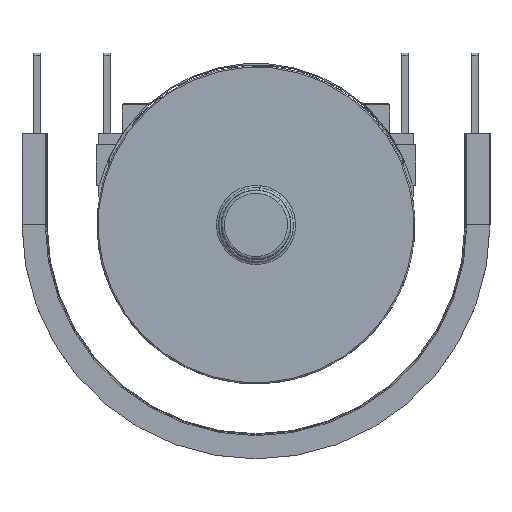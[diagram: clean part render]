
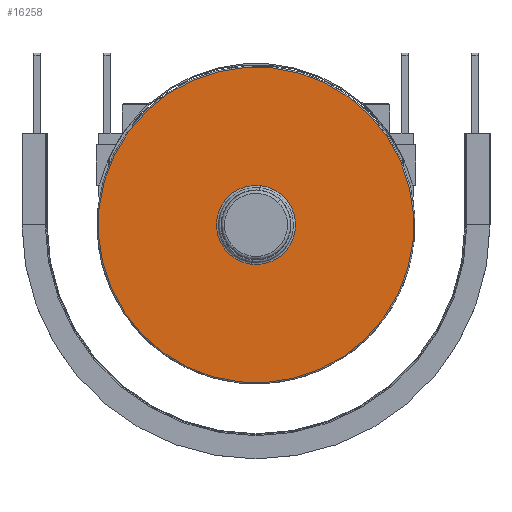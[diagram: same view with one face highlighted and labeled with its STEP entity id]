
A CAD part, front view. The second image highlights one B-rep face of the part: STEP entity #16258.
In plain terms, the highlighted planar face has unit normal (0, -1, 0) as drawn and (0, 0, 1) by its records, which use the part's own axes.
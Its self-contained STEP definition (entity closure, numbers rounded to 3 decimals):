
#724 = CARTESIAN_POINT ( 'NONE',  ( 895.8, 0., 21.9 ) ) ;
#725 = DIRECTION ( 'NONE',  ( 0., 0., 1. ) ) ;
#726 = DIRECTION ( 'NONE',  ( 0., 1., 0. ) ) ;
#736 = CARTESIAN_POINT ( 'NONE',  ( 895.8, 0., 21.9 ) ) ;
#737 = DIRECTION ( 'NONE',  ( 0., 0., -1. ) ) ;
#738 = DIRECTION ( 'NONE',  ( -1., 0., 0. ) ) ;
#2935 = CARTESIAN_POINT ( 'NONE',  ( 895.8, 0., 21.9 ) ) ;
#2936 = DIRECTION ( 'NONE',  ( 0., 0., -1. ) ) ;
#2937 = DIRECTION ( 'NONE',  ( -1., 0., 0. ) ) ;
#2938 = CARTESIAN_POINT ( 'NONE',  ( 895.8, 0., 21.9 ) ) ;
#2939 = DIRECTION ( 'NONE',  ( 0., 0., 1. ) ) ;
#2940 = DIRECTION ( 'NONE',  ( 0., 1., 0. ) ) ;
#4701 = AXIS2_PLACEMENT_3D ( 'NONE', #2938, #2939, #2940 ) ;
#4704 = CIRCLE ( 'NONE', #4722, 34.5 ) ;
#4717 = CIRCLE ( 'NONE', #4701, 137.8 ) ;
#4722 = AXIS2_PLACEMENT_3D ( 'NONE', #2935, #2936, #2937 ) ;
#6001 = AXIS2_PLACEMENT_3D ( 'NONE', #20900, #20898, #20904 ) ;
#6896 = VERTEX_POINT ( 'NONE', #8109 ) ;
#6898 = VERTEX_POINT ( 'NONE', #8111 ) ;
#6913 = VERTEX_POINT ( 'NONE', #8126 ) ;
#6917 = VERTEX_POINT ( 'NONE', #8130 ) ;
#8109 = CARTESIAN_POINT ( 'NONE',  ( 861.3, 0., 21.9 ) ) ;
#8111 = CARTESIAN_POINT ( 'NONE',  ( 895.8, -137.8, 21.9 ) ) ;
#8126 = CARTESIAN_POINT ( 'NONE',  ( 895.8, 137.8, 21.9 ) ) ;
#8130 = CARTESIAN_POINT ( 'NONE',  ( 930.3, 0., 21.9 ) ) ;
#15964 = EDGE_LOOP ( 'NONE', ( #17504, #17505 ) ) ;
#16258 = ADVANCED_FACE ( 'NONE', ( #20896, #20901 ), #20902, .T. ) ;
#17504 = ORIENTED_EDGE ( 'NONE', *, *, #18451, .T. ) ;
#17505 = ORIENTED_EDGE ( 'NONE', *, *, #23069, .T. ) ;
#17506 = ORIENTED_EDGE ( 'NONE', *, *, #18449, .T. ) ;
#17507 = ORIENTED_EDGE ( 'NONE', *, *, #23073, .T. ) ;
#18449 = EDGE_CURVE ( 'NONE', #6896, #6917, #4704, .T. ) ;
#18451 = EDGE_CURVE ( 'NONE', #6913, #6898, #4717, .T. ) ;
#18611 = CIRCLE ( 'NONE', #18649, 137.8 ) ;
#18649 = AXIS2_PLACEMENT_3D ( 'NONE', #724, #725, #726 ) ;
#18658 = CIRCLE ( 'NONE', #18664, 34.5 ) ;
#18664 = AXIS2_PLACEMENT_3D ( 'NONE', #736, #737, #738 ) ;
#20896 = FACE_OUTER_BOUND ( 'NONE', #15964, .T. ) ;
#20898 = DIRECTION ( 'NONE',  ( 0., 0., 1. ) ) ;
#20900 = CARTESIAN_POINT ( 'NONE',  ( 981.95, 0., 21.9 ) ) ;
#20901 = FACE_BOUND ( 'NONE', #23626, .T. ) ;
#20902 = PLANE ( 'NONE',  #6001 ) ;
#20904 = DIRECTION ( 'NONE',  ( 1., 0., 0. ) ) ;
#23069 = EDGE_CURVE ( 'NONE', #6898, #6913, #18611, .T. ) ;
#23073 = EDGE_CURVE ( 'NONE', #6917, #6896, #18658, .T. ) ;
#23626 = EDGE_LOOP ( 'NONE', ( #17506, #17507 ) ) ;
